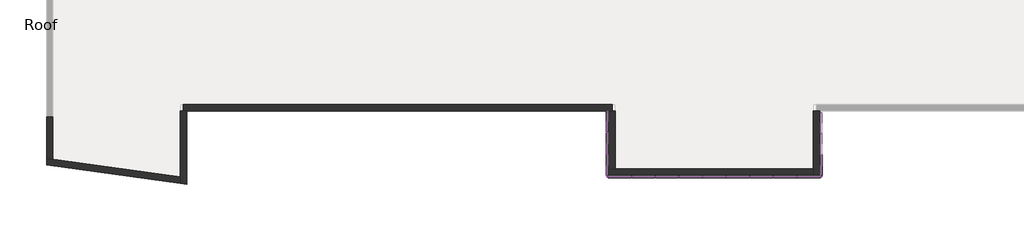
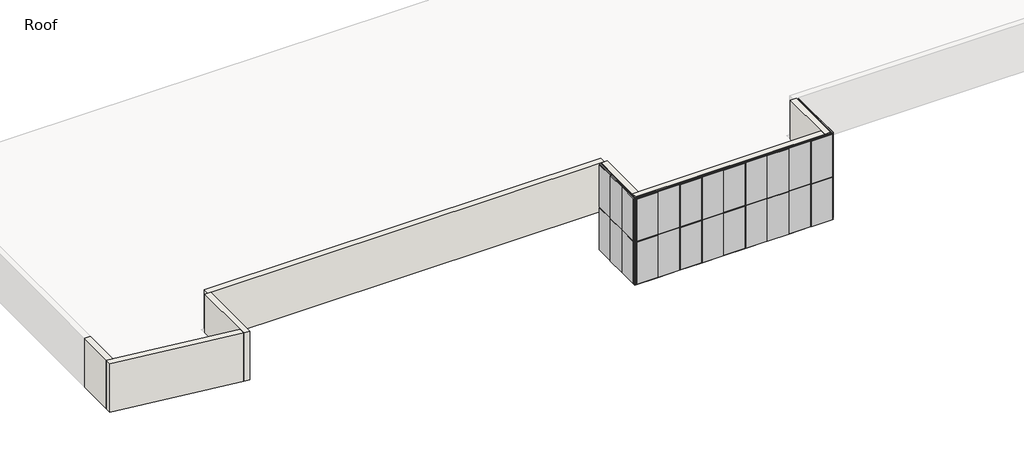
# One storey, part 1 of 5: 74 members, 27 plates, 7 walls.
"""IFC4 building model written with IfcOpenShell, lengths in millimetres."""

from ifc_helpers import new_model, si_unit, frame, origin, place, context, project, spatial, polyline, outline, extrude, faceted_brep, transform, mapped, element, save
from components import rectangular_mullion_25x25mm_786a5d36, rectangular_mullion_25x25mm_25fd254f, rectangular_mullion_25x25mm_09969e68, rectangular_mullion_25x25mm_003a9669, rectangular_mullion_25x25mm_920d8240, rectangular_mullion_25x25mm_c7fa3d61, rectangular_mullion_25x25mm_14c15364, rectangular_mullion_25x25mm_8c50469f, rectangular_mullion_25x25mm_42a5222e, rectangular_mullion_25x25mm_822b7fe3, rectangular_mullion_25x25mm_ea8cc668, rectangular_mullion_25x25mm_12161fae, rectangular_mullion_25x25mm_576a80d7, rectangular_mullion_25x25mm_4aee0d92, rectangular_mullion_25x25mm_b2ae1b76, rectangular_mullion_25x25mm_ac1da17a, rectangular_mullion_25x25mm_82e2e498, rectangular_mullion_25x25mm_e35c5382, rectangular_mullion_25x25mm_88effc69, curtain_panels_solid_solid_panel_green_cec9bcfa, curtain_panels_solid_solid_panel_green_66bc6fd1, curtain_panels_solid_solid_panel_green_5b8b56fd, curtain_panels_solid_solid_panel_green_875d4013

model = new_model("IFC4")

# Units and contexts
model_context = context("Model", 3, world=origin())
ifc_project = project(units=[si_unit("LENGTHUNIT", "METRE", prefix="MILLI")], contexts=[model_context])

# Site, building, storey
site = spatial("IfcSite", under=ifc_project)
building = spatial("IfcBuilding", under=site)
storey = spatial("IfcBuildingStorey", under=building, Name="Roof", Elevation=14600.0)

# Members
placement = place(None, origin())
rectangular_mullion_25x25mm_shape = rectangular_mullion_25x25mm_786a5d36(model_context)
element("IfcMember", 1, ObjectType="Rectangular Mullion : 25x25mm", at=placement, inside=storey, context=model_context, shape_type="MappedRepresentation", body=[
    mapped(rectangular_mullion_25x25mm_shape, transform((24873.2942367, -4250.005341, 16500.0), x_axis=(0.0, 0.0, 1.0), y_axis=(-1.0, 0.0, 0.0), z_axis=(0.0, -1.0, 0.0))),
])
rectangular_mullion_25x25mm_2_shape = rectangular_mullion_25x25mm_25fd254f(model_context)
element("IfcMember", 2, ObjectType="Rectangular Mullion : 25x25mm", at=placement, inside=storey, context=model_context, shape_type="MappedRepresentation", body=[
    mapped(rectangular_mullion_25x25mm_2_shape, transform((24873.2942367, -4977.5053408, 16500.0), x_axis=(0.0, 0.0, 1.0), y_axis=(-1.0, 0.0, 0.0), z_axis=(0.0, -1.0, 0.0))),
])
element("IfcMember", 3, ObjectType="Rectangular Mullion : 25x25mm", at=placement, inside=storey, context=model_context, shape_type="MappedRepresentation", body=[
    mapped(rectangular_mullion_25x25mm_2_shape, transform((24873.2942367, -4250.005341, 13110.0), x_axis=(0.0, 0.0, -1.0), y_axis=(-1.0, 0.0, 0.0), z_axis=(0.0, 1.0, 0.0))),
])
rectangular_mullion_25x25mm_3_shape = rectangular_mullion_25x25mm_09969e68(model_context)
element("IfcMember", 4, ObjectType="Rectangular Mullion : 25x25mm", at=placement, inside=storey, context=model_context, shape_type="MappedRepresentation", body=[
    mapped(rectangular_mullion_25x25mm_3_shape, transform((24873.2942367, -5692.5053409, 14805.0), x_axis=(0.0, 0.0, 1.0), y_axis=(-1.0, 0.0, 0.0), z_axis=(0.0, -1.0, 0.0))),
])
rectangular_mullion_25x25mm_4_shape = rectangular_mullion_25x25mm_003a9669(model_context)
element("IfcMember", 5, ObjectType="Rectangular Mullion : 25x25mm", at=placement, inside=storey, context=model_context, shape_type="MappedRepresentation", body=[
    mapped(rectangular_mullion_25x25mm_4_shape, transform((17573.2942367, -4210.005341, 16500.0), x_axis=(0.0, 0.0, 1.0), y_axis=(-1.0, 0.0, 0.0), z_axis=(0.0, -1.0, 0.0))),
])
rectangular_mullion_25x25mm_5_shape = rectangular_mullion_25x25mm_920d8240(model_context)
element("IfcMember", 6, ObjectType="Rectangular Mullion : 25x25mm", at=placement, inside=storey, context=model_context, shape_type="MappedRepresentation", body=[
    mapped(rectangular_mullion_25x25mm_5_shape, transform((17573.2942367, -4957.5053408, 16500.0), x_axis=(0.0, 0.0, 1.0), y_axis=(-1.0, 0.0, 0.0), z_axis=(0.0, -1.0, 0.0))),
])
element("IfcMember", 7, ObjectType="Rectangular Mullion : 25x25mm", at=placement, inside=storey, context=model_context, shape_type="MappedRepresentation", body=[
    mapped(rectangular_mullion_25x25mm_4_shape, transform((17573.2942367, -3475.0053409, 13110.0), x_axis=(0.0, 0.0, -1.0), y_axis=(-1.0, 0.0, 0.0), z_axis=(0.0, 1.0, 0.0))),
])
element("IfcMember", 8, ObjectType="Rectangular Mullion : 25x25mm", at=placement, inside=storey, context=model_context, shape_type="MappedRepresentation", body=[
    mapped(rectangular_mullion_25x25mm_5_shape, transform((17573.2942367, -4210.005341, 13110.0), x_axis=(0.0, 0.0, -1.0), y_axis=(-1.0, 0.0, 0.0), z_axis=(0.0, 1.0, 0.0))),
])
rectangular_mullion_25x25mm_6_shape = rectangular_mullion_25x25mm_c7fa3d61(model_context)
element("IfcMember", 9, ObjectType="Rectangular Mullion : 25x25mm", at=placement, inside=storey, context=model_context, shape_type="MappedRepresentation", body=[
    mapped(rectangular_mullion_25x25mm_6_shape, transform((24873.2942367, -5717.5053409, 16500.0), x_axis=(0.0, 0.0, 1.0), y_axis=(-1.0, 0.0, 0.0), z_axis=(0.0, -1.0, 0.0))),
])
rectangular_mullion_25x25mm_7_shape = rectangular_mullion_25x25mm_14c15364(model_context)
element("IfcMember", 10, ObjectType="Rectangular Mullion : 25x25mm", at=placement, inside=storey, context=model_context, shape_type="MappedRepresentation", body=[
    mapped(rectangular_mullion_25x25mm_7_shape, transform((24052.4609031, -5717.5053409, 16500.0), x_axis=(0.0, 0.0, 1.0), y_axis=(0.0, 1.0, 0.0), z_axis=(-1.0, 0.0, 0.0))),
])
rectangular_mullion_25x25mm_8_shape = rectangular_mullion_25x25mm_8c50469f(model_context)
element("IfcMember", 11, ObjectType="Rectangular Mullion : 25x25mm", at=placement, inside=storey, context=model_context, shape_type="MappedRepresentation", body=[
    mapped(rectangular_mullion_25x25mm_8_shape, transform((23244.1275698, -5717.5053409, 16500.0), x_axis=(0.0, 0.0, 1.0), y_axis=(0.0, 1.0, 0.0), z_axis=(-1.0, 0.0, 0.0))),
])
element("IfcMember", 12, ObjectType="Rectangular Mullion : 25x25mm", at=placement, inside=storey, context=model_context, shape_type="MappedRepresentation", body=[
    mapped(rectangular_mullion_25x25mm_8_shape, transform((22435.7942366, -5717.5053409, 16500.0), x_axis=(0.0, 0.0, 1.0), y_axis=(0.0, 1.0, 0.0), z_axis=(-1.0, 0.0, 0.0))),
])
element("IfcMember", 13, ObjectType="Rectangular Mullion : 25x25mm", at=placement, inside=storey, context=model_context, shape_type="MappedRepresentation", body=[
    mapped(rectangular_mullion_25x25mm_8_shape, transform((21627.4609033, -5717.5053409, 16500.0), x_axis=(0.0, 0.0, 1.0), y_axis=(0.0, 1.0, 0.0), z_axis=(-1.0, 0.0, 0.0))),
])
element("IfcMember", 14, ObjectType="Rectangular Mullion : 25x25mm", at=placement, inside=storey, context=model_context, shape_type="MappedRepresentation", body=[
    mapped(rectangular_mullion_25x25mm_8_shape, transform((20819.12757, -5717.5053409, 16500.0), x_axis=(0.0, 0.0, 1.0), y_axis=(0.0, 1.0, 0.0), z_axis=(-1.0, 0.0, 0.0))),
])
element("IfcMember", 15, ObjectType="Rectangular Mullion : 25x25mm", at=placement, inside=storey, context=model_context, shape_type="MappedRepresentation", body=[
    mapped(rectangular_mullion_25x25mm_8_shape, transform((20010.7942368, -5717.5053409, 16500.0), x_axis=(0.0, 0.0, 1.0), y_axis=(0.0, 1.0, 0.0), z_axis=(-1.0, 0.0, 0.0))),
])
element("IfcMember", 16, ObjectType="Rectangular Mullion : 25x25mm", at=placement, inside=storey, context=model_context, shape_type="MappedRepresentation", body=[
    mapped(rectangular_mullion_25x25mm_8_shape, transform((19202.4609035, -5717.5053409, 16500.0), x_axis=(0.0, 0.0, 1.0), y_axis=(0.0, 1.0, 0.0), z_axis=(-1.0, 0.0, 0.0))),
])
element("IfcMember", 17, ObjectType="Rectangular Mullion : 25x25mm", at=placement, inside=storey, context=model_context, shape_type="MappedRepresentation", body=[
    mapped(rectangular_mullion_25x25mm_8_shape, transform((18394.1275702, -5717.5053409, 16500.0), x_axis=(0.0, 0.0, 1.0), y_axis=(0.0, 1.0, 0.0), z_axis=(-1.0, 0.0, 0.0))),
])
element("IfcMember", 18, ObjectType="Rectangular Mullion : 25x25mm", at=placement, inside=storey, context=model_context, shape_type="MappedRepresentation", body=[
    mapped(rectangular_mullion_25x25mm_8_shape, transform((24052.4609031, -5717.5053409, 13110.0), x_axis=(0.0, 0.0, -1.0), y_axis=(0.0, 1.0, 0.0), z_axis=(1.0, 0.0, 0.0))),
])
element("IfcMember", 19, ObjectType="Rectangular Mullion : 25x25mm", at=placement, inside=storey, context=model_context, shape_type="MappedRepresentation", body=[
    mapped(rectangular_mullion_25x25mm_8_shape, transform((23244.1275698, -5717.5053409, 13110.0), x_axis=(0.0, 0.0, -1.0), y_axis=(0.0, 1.0, 0.0), z_axis=(1.0, 0.0, 0.0))),
])
element("IfcMember", 20, ObjectType="Rectangular Mullion : 25x25mm", at=placement, inside=storey, context=model_context, shape_type="MappedRepresentation", body=[
    mapped(rectangular_mullion_25x25mm_8_shape, transform((22435.7942366, -5717.5053409, 13110.0), x_axis=(0.0, 0.0, -1.0), y_axis=(0.0, 1.0, 0.0), z_axis=(1.0, 0.0, 0.0))),
])
element("IfcMember", 21, ObjectType="Rectangular Mullion : 25x25mm", at=placement, inside=storey, context=model_context, shape_type="MappedRepresentation", body=[
    mapped(rectangular_mullion_25x25mm_8_shape, transform((21627.4609033, -5717.5053409, 13110.0), x_axis=(0.0, 0.0, -1.0), y_axis=(0.0, 1.0, 0.0), z_axis=(1.0, 0.0, 0.0))),
])
element("IfcMember", 22, ObjectType="Rectangular Mullion : 25x25mm", at=placement, inside=storey, context=model_context, shape_type="MappedRepresentation", body=[
    mapped(rectangular_mullion_25x25mm_8_shape, transform((20819.12757, -5717.5053409, 13110.0), x_axis=(0.0, 0.0, -1.0), y_axis=(0.0, 1.0, 0.0), z_axis=(1.0, 0.0, 0.0))),
])
element("IfcMember", 23, ObjectType="Rectangular Mullion : 25x25mm", at=placement, inside=storey, context=model_context, shape_type="MappedRepresentation", body=[
    mapped(rectangular_mullion_25x25mm_8_shape, transform((20010.7942368, -5717.5053409, 13110.0), x_axis=(0.0, 0.0, -1.0), y_axis=(0.0, 1.0, 0.0), z_axis=(1.0, 0.0, 0.0))),
])
element("IfcMember", 24, ObjectType="Rectangular Mullion : 25x25mm", at=placement, inside=storey, context=model_context, shape_type="MappedRepresentation", body=[
    mapped(rectangular_mullion_25x25mm_8_shape, transform((19202.4609035, -5717.5053409, 13110.0), x_axis=(0.0, 0.0, -1.0), y_axis=(0.0, 1.0, 0.0), z_axis=(1.0, 0.0, 0.0))),
])
rectangular_mullion_25x25mm_9_shape = rectangular_mullion_25x25mm_42a5222e(model_context)
element("IfcMember", 25, ObjectType="Rectangular Mullion : 25x25mm", at=placement, inside=storey, context=model_context, shape_type="MappedRepresentation", body=[
    mapped(rectangular_mullion_25x25mm_9_shape, transform((24064.9609031, -5717.5053409, 14805.0), x_axis=(0.0, 0.0, 1.0), y_axis=(0.0, 1.0, 0.0), z_axis=(-1.0, 0.0, 0.0))),
])
element("IfcMember", 26, ObjectType="Rectangular Mullion : 25x25mm", at=placement, inside=storey, context=model_context, shape_type="MappedRepresentation", body=[
    mapped(rectangular_mullion_25x25mm_9_shape, transform((23256.6275698, -5717.5053409, 14805.0), x_axis=(0.0, 0.0, 1.0), y_axis=(0.0, 1.0, 0.0), z_axis=(-1.0, 0.0, 0.0))),
])
element("IfcMember", 27, ObjectType="Rectangular Mullion : 25x25mm", at=placement, inside=storey, context=model_context, shape_type="MappedRepresentation", body=[
    mapped(rectangular_mullion_25x25mm_9_shape, transform((22448.2942366, -5717.5053409, 14805.0), x_axis=(0.0, 0.0, 1.0), y_axis=(0.0, 1.0, 0.0), z_axis=(-1.0, 0.0, 0.0))),
])
element("IfcMember", 28, ObjectType="Rectangular Mullion : 25x25mm", at=placement, inside=storey, context=model_context, shape_type="MappedRepresentation", body=[
    mapped(rectangular_mullion_25x25mm_9_shape, transform((21639.9609033, -5717.5053409, 14805.0), x_axis=(0.0, 0.0, 1.0), y_axis=(0.0, 1.0, 0.0), z_axis=(-1.0, 0.0, 0.0))),
])
element("IfcMember", 29, ObjectType="Rectangular Mullion : 25x25mm", at=placement, inside=storey, context=model_context, shape_type="MappedRepresentation", body=[
    mapped(rectangular_mullion_25x25mm_9_shape, transform((20831.62757, -5717.5053409, 14805.0), x_axis=(0.0, 0.0, 1.0), y_axis=(0.0, 1.0, 0.0), z_axis=(-1.0, 0.0, 0.0))),
])
element("IfcMember", 30, ObjectType="Rectangular Mullion : 25x25mm", at=placement, inside=storey, context=model_context, shape_type="MappedRepresentation", body=[
    mapped(rectangular_mullion_25x25mm_9_shape, transform((20023.2942368, -5717.5053409, 14805.0), x_axis=(0.0, 0.0, 1.0), y_axis=(0.0, 1.0, 0.0), z_axis=(-1.0, 0.0, 0.0))),
])
element("IfcMember", 31, ObjectType="Rectangular Mullion : 25x25mm", at=placement, inside=storey, context=model_context, shape_type="MappedRepresentation", body=[
    mapped(rectangular_mullion_25x25mm_9_shape, transform((19214.9609035, -5717.5053409, 14805.0), x_axis=(0.0, 0.0, 1.0), y_axis=(0.0, 1.0, 0.0), z_axis=(-1.0, 0.0, 0.0))),
])
element("IfcMember", 32, ObjectType="Rectangular Mullion : 25x25mm", at=placement, inside=storey, context=model_context, shape_type="MappedRepresentation", body=[
    mapped(rectangular_mullion_25x25mm_9_shape, transform((18406.6275702, -5717.5053409, 14805.0), x_axis=(0.0, 0.0, 1.0), y_axis=(0.0, 1.0, 0.0), z_axis=(-1.0, 0.0, 0.0))),
])
element("IfcMember", 33, ObjectType="Rectangular Mullion : 25x25mm", at=placement, inside=storey, context=model_context, shape_type="MappedRepresentation", body=[
    mapped(rectangular_mullion_25x25mm_9_shape, transform((17598.2942367, -5717.5053409, 14805.0), x_axis=(0.0, 0.0, 1.0), y_axis=(0.0, 1.0, 0.0), z_axis=(-1.0, 0.0, 0.0))),
])
rectangular_mullion_25x25mm_10_shape = rectangular_mullion_25x25mm_822b7fe3(model_context)
element("IfcMember", 34, ObjectType="Rectangular Mullion : 25x25mm", at=placement, inside=storey, context=model_context, shape_type="MappedRepresentation", body=[
    mapped(rectangular_mullion_25x25mm_10_shape, transform((17573.2942367, -5717.5053409, 16500.0), x_axis=(0.0, 0.0, 1.0), y_axis=(-1.0, 0.0, 0.0), z_axis=(0.0, -1.0, 0.0))),
])
rectangular_mullion_25x25mm_11_shape = rectangular_mullion_25x25mm_ea8cc668(model_context)
element("IfcMember", 35, ObjectType="Rectangular Mullion : 25x25mm", at=placement, inside=storey, context=model_context, shape_type="MappedRepresentation", body=[
    mapped(rectangular_mullion_25x25mm_11_shape, transform((17573.2942367, -5717.5053409, 16500.0), x_axis=(0.0, 0.0, 1.0), y_axis=(0.0, 1.0, 0.0), z_axis=(-1.0, 0.0, 0.0))),
])
element("IfcMember", 36, ObjectType="Rectangular Mullion : 25x25mm", at=placement, inside=storey, context=model_context, shape_type="MappedRepresentation", body=[
    mapped(rectangular_mullion_25x25mm_11_shape, transform((24873.2942367, -5717.5053409, 13110.0), x_axis=(0.0, 0.0, -1.0), y_axis=(0.0, 1.0, 0.0), z_axis=(1.0, 0.0, 0.0))),
])
element("IfcMember", 37, ObjectType="Rectangular Mullion : 25x25mm", at=placement, inside=storey, context=model_context, shape_type="MappedRepresentation", body=[
    mapped(rectangular_mullion_25x25mm_7_shape, transform((18394.1275702, -5717.5053409, 13110.0), x_axis=(0.0, 0.0, -1.0), y_axis=(0.0, 1.0, 0.0), z_axis=(1.0, 0.0, 0.0))),
])
rectangular_mullion_25x25mm_12_shape = rectangular_mullion_25x25mm_12161fae(model_context)
element("IfcMember", 38, ObjectType="Rectangular Mullion : 25x25mm", at=placement, inside=storey, context=model_context, shape_type="MappedRepresentation", body=[
    mapped(rectangular_mullion_25x25mm_12_shape, transform((24873.2942367, -4977.5053408, 13110.0), x_axis=(0.0, 0.0, -1.0), y_axis=(-1.0, 0.0, 0.0), z_axis=(0.0, 1.0, 0.0))),
])
rectangular_mullion_25x25mm_13_shape = rectangular_mullion_25x25mm_576a80d7(model_context)
element("IfcMember", 39, ObjectType="Rectangular Mullion : 25x25mm", at=placement, inside=storey, context=model_context, shape_type="MappedRepresentation", body=[
    mapped(rectangular_mullion_25x25mm_13_shape, transform((17573.2942367, -4957.5053408, 13110.0), x_axis=(0.0, 0.0, -1.0), y_axis=(-1.0, 0.0, 0.0), z_axis=(0.0, 1.0, 0.0))),
])
rectangular_mullion_25x25mm_14_shape = rectangular_mullion_25x25mm_4aee0d92(model_context)
element("IfcMember", 40, ObjectType="Rectangular Mullion : 25x25mm", at=placement, inside=storey, context=model_context, shape_type="MappedRepresentation", body=[
    mapped(rectangular_mullion_25x25mm_14_shape, transform((24873.2942367, -4250.005341, 13135.0), x_axis=(0.0, -1.0, 0.0), y_axis=(-1.0, 0.0, 0.0), z_axis=(0.0, 0.0, -1.0))),
])
element("IfcMember", 41, ObjectType="Rectangular Mullion : 25x25mm", at=placement, inside=storey, context=model_context, shape_type="MappedRepresentation", body=[
    mapped(rectangular_mullion_25x25mm_14_shape, transform((24873.2942367, -4977.5053408, 13135.0), x_axis=(0.0, -1.0, 0.0), y_axis=(-1.0, 0.0, 0.0), z_axis=(0.0, 0.0, -1.0))),
])
element("IfcMember", 42, ObjectType="Rectangular Mullion : 25x25mm", at=placement, inside=storey, context=model_context, shape_type="MappedRepresentation", body=[
    mapped(rectangular_mullion_25x25mm_14_shape, transform((24052.4609031, -5717.5053409, 13135.0), x_axis=(-1.0, 0.0, 0.0), y_axis=(0.0, 1.0, 0.0), z_axis=(0.0, 0.0, -1.0))),
])
element("IfcMember", 43, ObjectType="Rectangular Mullion : 25x25mm", at=placement, inside=storey, context=model_context, shape_type="MappedRepresentation", body=[
    mapped(rectangular_mullion_25x25mm_14_shape, transform((23244.1275698, -5717.5053409, 13135.0), x_axis=(-1.0, 0.0, 0.0), y_axis=(0.0, 1.0, 0.0), z_axis=(0.0, 0.0, -1.0))),
])
element("IfcMember", 44, ObjectType="Rectangular Mullion : 25x25mm", at=placement, inside=storey, context=model_context, shape_type="MappedRepresentation", body=[
    mapped(rectangular_mullion_25x25mm_14_shape, transform((22435.7942366, -5717.5053409, 13135.0), x_axis=(-1.0, 0.0, 0.0), y_axis=(0.0, 1.0, 0.0), z_axis=(0.0, 0.0, -1.0))),
])
element("IfcMember", 45, ObjectType="Rectangular Mullion : 25x25mm", at=placement, inside=storey, context=model_context, shape_type="MappedRepresentation", body=[
    mapped(rectangular_mullion_25x25mm_14_shape, transform((21627.4609033, -5717.5053409, 13135.0), x_axis=(-1.0, 0.0, 0.0), y_axis=(0.0, 1.0, 0.0), z_axis=(0.0, 0.0, -1.0))),
])
element("IfcMember", 46, ObjectType="Rectangular Mullion : 25x25mm", at=placement, inside=storey, context=model_context, shape_type="MappedRepresentation", body=[
    mapped(rectangular_mullion_25x25mm_14_shape, transform((20819.12757, -5717.5053409, 13135.0), x_axis=(-1.0, 0.0, 0.0), y_axis=(0.0, 1.0, 0.0), z_axis=(0.0, 0.0, -1.0))),
])
element("IfcMember", 47, ObjectType="Rectangular Mullion : 25x25mm", at=placement, inside=storey, context=model_context, shape_type="MappedRepresentation", body=[
    mapped(rectangular_mullion_25x25mm_14_shape, transform((20010.7942368, -5717.5053409, 13135.0), x_axis=(-1.0, 0.0, 0.0), y_axis=(0.0, 1.0, 0.0), z_axis=(0.0, 0.0, -1.0))),
])
element("IfcMember", 48, ObjectType="Rectangular Mullion : 25x25mm", at=placement, inside=storey, context=model_context, shape_type="MappedRepresentation", body=[
    mapped(rectangular_mullion_25x25mm_14_shape, transform((19202.4609035, -5717.5053409, 13135.0), x_axis=(-1.0, 0.0, 0.0), y_axis=(0.0, 1.0, 0.0), z_axis=(0.0, 0.0, -1.0))),
])
element("IfcMember", 49, ObjectType="Rectangular Mullion : 25x25mm", at=placement, inside=storey, context=model_context, shape_type="MappedRepresentation", body=[
    mapped(rectangular_mullion_25x25mm_14_shape, transform((18394.1275702, -5717.5053409, 13135.0), x_axis=(-1.0, 0.0, 0.0), y_axis=(0.0, 1.0, 0.0), z_axis=(0.0, 0.0, -1.0))),
])
element("IfcMember", 50, ObjectType="Rectangular Mullion : 25x25mm", at=placement, inside=storey, context=model_context, shape_type="MappedRepresentation", body=[
    mapped(rectangular_mullion_25x25mm_14_shape, transform((24052.4609031, -5717.5053409, 14805.0), x_axis=(-1.0, 0.0, 0.0), y_axis=(0.0, 1.0, 0.0), z_axis=(0.0, 0.0, -1.0))),
])
element("IfcMember", 51, ObjectType="Rectangular Mullion : 25x25mm", at=placement, inside=storey, context=model_context, shape_type="MappedRepresentation", body=[
    mapped(rectangular_mullion_25x25mm_14_shape, transform((23244.1275698, -5717.5053409, 14805.0), x_axis=(-1.0, 0.0, 0.0), y_axis=(0.0, 1.0, 0.0), z_axis=(0.0, 0.0, -1.0))),
])
element("IfcMember", 52, ObjectType="Rectangular Mullion : 25x25mm", at=placement, inside=storey, context=model_context, shape_type="MappedRepresentation", body=[
    mapped(rectangular_mullion_25x25mm_14_shape, transform((22435.7942366, -5717.5053409, 14805.0), x_axis=(-1.0, 0.0, 0.0), y_axis=(0.0, 1.0, 0.0), z_axis=(0.0, 0.0, -1.0))),
])
element("IfcMember", 53, ObjectType="Rectangular Mullion : 25x25mm", at=placement, inside=storey, context=model_context, shape_type="MappedRepresentation", body=[
    mapped(rectangular_mullion_25x25mm_14_shape, transform((21627.4609033, -5717.5053409, 14805.0), x_axis=(-1.0, 0.0, 0.0), y_axis=(0.0, 1.0, 0.0), z_axis=(0.0, 0.0, -1.0))),
])
element("IfcMember", 54, ObjectType="Rectangular Mullion : 25x25mm", at=placement, inside=storey, context=model_context, shape_type="MappedRepresentation", body=[
    mapped(rectangular_mullion_25x25mm_14_shape, transform((20819.12757, -5717.5053409, 14805.0), x_axis=(-1.0, 0.0, 0.0), y_axis=(0.0, 1.0, 0.0), z_axis=(0.0, 0.0, -1.0))),
])
element("IfcMember", 55, ObjectType="Rectangular Mullion : 25x25mm", at=placement, inside=storey, context=model_context, shape_type="MappedRepresentation", body=[
    mapped(rectangular_mullion_25x25mm_14_shape, transform((20010.7942368, -5717.5053409, 14805.0), x_axis=(-1.0, 0.0, 0.0), y_axis=(0.0, 1.0, 0.0), z_axis=(0.0, 0.0, -1.0))),
])
element("IfcMember", 56, ObjectType="Rectangular Mullion : 25x25mm", at=placement, inside=storey, context=model_context, shape_type="MappedRepresentation", body=[
    mapped(rectangular_mullion_25x25mm_14_shape, transform((19202.4609035, -5717.5053409, 14805.0), x_axis=(-1.0, 0.0, 0.0), y_axis=(0.0, 1.0, 0.0), z_axis=(0.0, 0.0, -1.0))),
])
element("IfcMember", 57, ObjectType="Rectangular Mullion : 25x25mm", at=placement, inside=storey, context=model_context, shape_type="MappedRepresentation", body=[
    mapped(rectangular_mullion_25x25mm_14_shape, transform((18394.1275702, -5717.5053409, 14805.0), x_axis=(-1.0, 0.0, 0.0), y_axis=(0.0, 1.0, 0.0), z_axis=(0.0, 0.0, -1.0))),
])
rectangular_mullion_25x25mm_15_shape = rectangular_mullion_25x25mm_b2ae1b76(model_context)
element("IfcMember", 58, ObjectType="Rectangular Mullion : 25x25mm", at=placement, inside=storey, context=model_context, shape_type="MappedRepresentation", body=[
    mapped(rectangular_mullion_25x25mm_15_shape, transform((24873.2942367, -5717.5053409, 13135.0), x_axis=(0.0, -1.0, 0.0), y_axis=(-1.0, 0.0, 0.0), z_axis=(0.0, 0.0, -1.0))),
])
element("IfcMember", 59, ObjectType="Rectangular Mullion : 25x25mm", at=placement, inside=storey, context=model_context, shape_type="MappedRepresentation", body=[
    mapped(rectangular_mullion_25x25mm_15_shape, transform((17573.2942367, -5717.5053409, 13135.0), x_axis=(-1.0, 0.0, 0.0), y_axis=(0.0, 1.0, 0.0), z_axis=(0.0, 0.0, -1.0))),
])
element("IfcMember", 60, ObjectType="Rectangular Mullion : 25x25mm", at=placement, inside=storey, context=model_context, shape_type="MappedRepresentation", body=[
    mapped(rectangular_mullion_25x25mm_15_shape, transform((24873.2942367, -5717.5053409, 16475.0), x_axis=(1.0, 0.0, 0.0), y_axis=(0.0, 1.0, 0.0), z_axis=(0.0, 0.0, 1.0))),
])
element("IfcMember", 61, ObjectType="Rectangular Mullion : 25x25mm", at=placement, inside=storey, context=model_context, shape_type="MappedRepresentation", body=[
    mapped(rectangular_mullion_25x25mm_15_shape, transform((24873.2942367, -5717.5053409, 14805.0), x_axis=(0.0, -1.0, 0.0), y_axis=(-1.0, 0.0, 0.0), z_axis=(0.0, 0.0, -1.0))),
])
element("IfcMember", 62, ObjectType="Rectangular Mullion : 25x25mm", at=placement, inside=storey, context=model_context, shape_type="MappedRepresentation", body=[
    mapped(rectangular_mullion_25x25mm_15_shape, transform((17573.2942367, -5717.5053409, 14805.0), x_axis=(-1.0, 0.0, 0.0), y_axis=(0.0, 1.0, 0.0), z_axis=(0.0, 0.0, -1.0))),
])
element("IfcMember", 63, ObjectType="Rectangular Mullion : 25x25mm", at=placement, inside=storey, context=model_context, shape_type="MappedRepresentation", body=[
    mapped(rectangular_mullion_25x25mm_15_shape, transform((24873.2942367, -5717.5053409, 14805.0), x_axis=(1.0, 0.0, 0.0), y_axis=(0.0, 1.0, 0.0), z_axis=(0.0, 0.0, 1.0))),
])
rectangular_mullion_25x25mm_16_shape = rectangular_mullion_25x25mm_ac1da17a(model_context)
element("IfcMember", 64, ObjectType="Rectangular Mullion : 25x25mm", at=placement, inside=storey, context=model_context, shape_type="MappedRepresentation", body=[
    mapped(rectangular_mullion_25x25mm_16_shape, transform((17573.2942367, -4210.005341, 13135.0), x_axis=(0.0, -1.0, 0.0), y_axis=(-1.0, 0.0, 0.0), z_axis=(0.0, 0.0, -1.0))),
])
element("IfcMember", 65, ObjectType="Rectangular Mullion : 25x25mm", at=placement, inside=storey, context=model_context, shape_type="MappedRepresentation", body=[
    mapped(rectangular_mullion_25x25mm_16_shape, transform((17573.2942367, -4957.5053408, 13135.0), x_axis=(0.0, -1.0, 0.0), y_axis=(-1.0, 0.0, 0.0), z_axis=(0.0, 0.0, -1.0))),
])
element("IfcMember", 66, ObjectType="Rectangular Mullion : 25x25mm", at=placement, inside=storey, context=model_context, shape_type="MappedRepresentation", body=[
    mapped(rectangular_mullion_25x25mm_16_shape, transform((17573.2942367, -4210.005341, 14805.0), x_axis=(0.0, -1.0, 0.0), y_axis=(-1.0, 0.0, 0.0), z_axis=(0.0, 0.0, -1.0))),
])
element("IfcMember", 67, ObjectType="Rectangular Mullion : 25x25mm", at=placement, inside=storey, context=model_context, shape_type="MappedRepresentation", body=[
    mapped(rectangular_mullion_25x25mm_16_shape, transform((17573.2942367, -4957.5053408, 14805.0), x_axis=(0.0, -1.0, 0.0), y_axis=(-1.0, 0.0, 0.0), z_axis=(0.0, 0.0, -1.0))),
])
rectangular_mullion_25x25mm_17_shape = rectangular_mullion_25x25mm_82e2e498(model_context)
element("IfcMember", 68, ObjectType="Rectangular Mullion : 25x25mm", at=placement, inside=storey, context=model_context, shape_type="MappedRepresentation", body=[
    mapped(rectangular_mullion_25x25mm_17_shape, transform((17573.2942367, -4197.505341, 14805.0), x_axis=(0.0, 0.0, 1.0), y_axis=(-1.0, 0.0, 0.0), z_axis=(0.0, -1.0, 0.0))),
])
rectangular_mullion_25x25mm_18_shape = rectangular_mullion_25x25mm_e35c5382(model_context)
element("IfcMember", 69, ObjectType="Rectangular Mullion : 25x25mm", at=placement, inside=storey, context=model_context, shape_type="MappedRepresentation", body=[
    mapped(rectangular_mullion_25x25mm_18_shape, transform((17573.2942367, -4945.0053408, 14805.0), x_axis=(0.0, 0.0, 1.0), y_axis=(-1.0, 0.0, 0.0), z_axis=(0.0, -1.0, 0.0))),
])
element("IfcMember", 70, ObjectType="Rectangular Mullion : 25x25mm", at=placement, inside=storey, context=model_context, shape_type="MappedRepresentation", body=[
    mapped(rectangular_mullion_25x25mm_18_shape, transform((17573.2942367, -5692.5053409, 14805.0), x_axis=(0.0, 0.0, 1.0), y_axis=(-1.0, 0.0, 0.0), z_axis=(0.0, -1.0, 0.0))),
])
rectangular_mullion_25x25mm_19_shape = rectangular_mullion_25x25mm_88effc69(model_context)
element("IfcMember", 71, ObjectType="Rectangular Mullion : 25x25mm", at=placement, inside=storey, context=model_context, shape_type="MappedRepresentation", body=[
    mapped(rectangular_mullion_25x25mm_19_shape, transform((17573.2942367, -5717.5053409, 13135.0), x_axis=(0.0, -1.0, 0.0), y_axis=(-1.0, 0.0, 0.0), z_axis=(0.0, 0.0, -1.0))),
])
element("IfcMember", 72, ObjectType="Rectangular Mullion : 25x25mm", at=placement, inside=storey, context=model_context, shape_type="MappedRepresentation", body=[
    mapped(rectangular_mullion_25x25mm_19_shape, transform((17573.2942367, -3475.0053409, 16475.0), x_axis=(0.0, 1.0, 0.0), y_axis=(-1.0, 0.0, 0.0), z_axis=(0.0, 0.0, 1.0))),
])
element("IfcMember", 73, ObjectType="Rectangular Mullion : 25x25mm", at=placement, inside=storey, context=model_context, shape_type="MappedRepresentation", body=[
    mapped(rectangular_mullion_25x25mm_19_shape, transform((17573.2942367, -5717.5053409, 14805.0), x_axis=(0.0, -1.0, 0.0), y_axis=(-1.0, 0.0, 0.0), z_axis=(0.0, 0.0, -1.0))),
])
element("IfcMember", 74, ObjectType="Rectangular Mullion : 25x25mm", at=placement, inside=storey, context=model_context, shape_type="MappedRepresentation", body=[
    mapped(rectangular_mullion_25x25mm_19_shape, transform((17573.2942367, -3475.0053409, 14805.0), x_axis=(0.0, 1.0, 0.0), y_axis=(-1.0, 0.0, 0.0), z_axis=(0.0, 0.0, 1.0))),
])

# Plates
curtain_panels_solid_solid_panel_green_shape = curtain_panels_solid_solid_panel_green_cec9bcfa(model_context)
element("IfcPlate", 75, ObjectType="Curtain_Panels_Solid : Solid_Panel_Green", at=placement, inside=storey, context=model_context, shape_type="MappedRepresentation", body=[
    mapped(curtain_panels_solid_solid_panel_green_shape, transform((24873.2942367, -4613.7553409, 13135.0), x_axis=(0.0, -1.0, 0.0), y_axis=(1.0, 0.0, 0.0), z_axis=(0.0, 0.0, 1.0))),
])
element("IfcPlate", 76, ObjectType="Curtain_Panels_Solid : Solid_Panel_Green", at=placement, inside=storey, context=model_context, shape_type="MappedRepresentation", body=[
    mapped(curtain_panels_solid_solid_panel_green_shape, transform((24873.2942367, -5341.2553408, 13135.0), x_axis=(0.0, -1.0, 0.0), y_axis=(1.0, 0.0, 0.0), z_axis=(0.0, 0.0, 1.0))),
])
element("IfcPlate", 77, ObjectType="Curtain_Panels_Solid : Solid_Panel_Green", at=placement, inside=storey, context=model_context, shape_type="MappedRepresentation", body=[
    mapped(curtain_panels_solid_solid_panel_green_shape, transform((24873.2942367, -5341.2553408, 14817.5), x_axis=(0.0, -1.0, 0.0), y_axis=(1.0, 0.0, 0.0), z_axis=(0.0, 0.0, 1.0))),
])
curtain_panels_solid_solid_panel_green_2_shape = curtain_panels_solid_solid_panel_green_66bc6fd1(model_context)
element("IfcPlate", 78, ObjectType="Curtain_Panels_Solid : Solid_Panel_Green", at=placement, inside=storey, context=model_context, shape_type="MappedRepresentation", body=[
    mapped(curtain_panels_solid_solid_panel_green_2_shape, transform((24456.6275699, -5717.5053409, 13135.0), x_axis=(-1.0, 0.0, 0.0), y_axis=(0.0, -1.0, 0.0), z_axis=(0.0, 0.0, 1.0))),
])
element("IfcPlate", 79, ObjectType="Curtain_Panels_Solid : Solid_Panel_Green", at=placement, inside=storey, context=model_context, shape_type="MappedRepresentation", body=[
    mapped(curtain_panels_solid_solid_panel_green_2_shape, transform((23648.2942365, -5717.5053409, 13135.0), x_axis=(-1.0, 0.0, 0.0), y_axis=(0.0, -1.0, 0.0), z_axis=(0.0, 0.0, 1.0))),
])
element("IfcPlate", 80, ObjectType="Curtain_Panels_Solid : Solid_Panel_Green", at=placement, inside=storey, context=model_context, shape_type="MappedRepresentation", body=[
    mapped(curtain_panels_solid_solid_panel_green_2_shape, transform((22839.9609032, -5717.5053409, 13135.0), x_axis=(-1.0, 0.0, 0.0), y_axis=(0.0, -1.0, 0.0), z_axis=(0.0, 0.0, 1.0))),
])
element("IfcPlate", 81, ObjectType="Curtain_Panels_Solid : Solid_Panel_Green", at=placement, inside=storey, context=model_context, shape_type="MappedRepresentation", body=[
    mapped(curtain_panels_solid_solid_panel_green_2_shape, transform((22031.6275699, -5717.5053409, 13135.0), x_axis=(-1.0, 0.0, 0.0), y_axis=(0.0, -1.0, 0.0), z_axis=(0.0, 0.0, 1.0))),
])
element("IfcPlate", 82, ObjectType="Curtain_Panels_Solid : Solid_Panel_Green", at=placement, inside=storey, context=model_context, shape_type="MappedRepresentation", body=[
    mapped(curtain_panels_solid_solid_panel_green_2_shape, transform((21223.2942367, -5717.5053409, 13135.0), x_axis=(-1.0, 0.0, 0.0), y_axis=(0.0, -1.0, 0.0), z_axis=(0.0, 0.0, 1.0))),
])
element("IfcPlate", 83, ObjectType="Curtain_Panels_Solid : Solid_Panel_Green", at=placement, inside=storey, context=model_context, shape_type="MappedRepresentation", body=[
    mapped(curtain_panels_solid_solid_panel_green_2_shape, transform((20414.9609034, -5717.5053409, 13135.0), x_axis=(-1.0, 0.0, 0.0), y_axis=(0.0, -1.0, 0.0), z_axis=(0.0, 0.0, 1.0))),
])
element("IfcPlate", 84, ObjectType="Curtain_Panels_Solid : Solid_Panel_Green", at=placement, inside=storey, context=model_context, shape_type="MappedRepresentation", body=[
    mapped(curtain_panels_solid_solid_panel_green_2_shape, transform((19606.6275701, -5717.5053409, 13135.0), x_axis=(-1.0, 0.0, 0.0), y_axis=(0.0, -1.0, 0.0), z_axis=(0.0, 0.0, 1.0))),
])
element("IfcPlate", 85, ObjectType="Curtain_Panels_Solid : Solid_Panel_Green", at=placement, inside=storey, context=model_context, shape_type="MappedRepresentation", body=[
    mapped(curtain_panels_solid_solid_panel_green_2_shape, transform((18798.2942369, -5717.5053409, 13135.0), x_axis=(-1.0, 0.0, 0.0), y_axis=(0.0, -1.0, 0.0), z_axis=(0.0, 0.0, 1.0))),
])
element("IfcPlate", 86, ObjectType="Curtain_Panels_Solid : Solid_Panel_Green", at=placement, inside=storey, context=model_context, shape_type="MappedRepresentation", body=[
    mapped(curtain_panels_solid_solid_panel_green_2_shape, transform((17989.9609035, -5717.5053409, 13135.0), x_axis=(-1.0, 0.0, 0.0), y_axis=(0.0, -1.0, 0.0), z_axis=(0.0, 0.0, 1.0))),
])
element("IfcPlate", 87, ObjectType="Curtain_Panels_Solid : Solid_Panel_Green", at=placement, inside=storey, context=model_context, shape_type="MappedRepresentation", body=[
    mapped(curtain_panels_solid_solid_panel_green_2_shape, transform((24456.6275699, -5717.5053409, 14817.5), x_axis=(-1.0, 0.0, 0.0), y_axis=(0.0, -1.0, 0.0), z_axis=(0.0, 0.0, 1.0))),
])
element("IfcPlate", 88, ObjectType="Curtain_Panels_Solid : Solid_Panel_Green", at=placement, inside=storey, context=model_context, shape_type="MappedRepresentation", body=[
    mapped(curtain_panels_solid_solid_panel_green_2_shape, transform((23648.2942365, -5717.5053409, 14817.5), x_axis=(-1.0, 0.0, 0.0), y_axis=(0.0, -1.0, 0.0), z_axis=(0.0, 0.0, 1.0))),
])
element("IfcPlate", 89, ObjectType="Curtain_Panels_Solid : Solid_Panel_Green", at=placement, inside=storey, context=model_context, shape_type="MappedRepresentation", body=[
    mapped(curtain_panels_solid_solid_panel_green_2_shape, transform((22839.9609032, -5717.5053409, 14817.5), x_axis=(-1.0, 0.0, 0.0), y_axis=(0.0, -1.0, 0.0), z_axis=(0.0, 0.0, 1.0))),
])
element("IfcPlate", 90, ObjectType="Curtain_Panels_Solid : Solid_Panel_Green", at=placement, inside=storey, context=model_context, shape_type="MappedRepresentation", body=[
    mapped(curtain_panels_solid_solid_panel_green_2_shape, transform((22031.6275699, -5717.5053409, 14817.5), x_axis=(-1.0, 0.0, 0.0), y_axis=(0.0, -1.0, 0.0), z_axis=(0.0, 0.0, 1.0))),
])
element("IfcPlate", 91, ObjectType="Curtain_Panels_Solid : Solid_Panel_Green", at=placement, inside=storey, context=model_context, shape_type="MappedRepresentation", body=[
    mapped(curtain_panels_solid_solid_panel_green_2_shape, transform((21223.2942367, -5717.5053409, 14817.5), x_axis=(-1.0, 0.0, 0.0), y_axis=(0.0, -1.0, 0.0), z_axis=(0.0, 0.0, 1.0))),
])
element("IfcPlate", 92, ObjectType="Curtain_Panels_Solid : Solid_Panel_Green", at=placement, inside=storey, context=model_context, shape_type="MappedRepresentation", body=[
    mapped(curtain_panels_solid_solid_panel_green_2_shape, transform((20414.9609034, -5717.5053409, 14817.5), x_axis=(-1.0, 0.0, 0.0), y_axis=(0.0, -1.0, 0.0), z_axis=(0.0, 0.0, 1.0))),
])
element("IfcPlate", 93, ObjectType="Curtain_Panels_Solid : Solid_Panel_Green", at=placement, inside=storey, context=model_context, shape_type="MappedRepresentation", body=[
    mapped(curtain_panels_solid_solid_panel_green_2_shape, transform((19606.6275701, -5717.5053409, 14817.5), x_axis=(-1.0, 0.0, 0.0), y_axis=(0.0, -1.0, 0.0), z_axis=(0.0, 0.0, 1.0))),
])
element("IfcPlate", 94, ObjectType="Curtain_Panels_Solid : Solid_Panel_Green", at=placement, inside=storey, context=model_context, shape_type="MappedRepresentation", body=[
    mapped(curtain_panels_solid_solid_panel_green_2_shape, transform((18798.2942369, -5717.5053409, 14817.5), x_axis=(-1.0, 0.0, 0.0), y_axis=(0.0, -1.0, 0.0), z_axis=(0.0, 0.0, 1.0))),
])
element("IfcPlate", 95, ObjectType="Curtain_Panels_Solid : Solid_Panel_Green", at=placement, inside=storey, context=model_context, shape_type="MappedRepresentation", body=[
    mapped(curtain_panels_solid_solid_panel_green_2_shape, transform((17989.9609035, -5717.5053409, 14817.5), x_axis=(-1.0, 0.0, 0.0), y_axis=(0.0, -1.0, 0.0), z_axis=(0.0, 0.0, 1.0))),
])
curtain_panels_solid_solid_panel_green_3_shape = curtain_panels_solid_solid_panel_green_5b8b56fd(model_context)
element("IfcPlate", 96, ObjectType="Curtain_Panels_Solid : Solid_Panel_Green", at=placement, inside=storey, context=model_context, shape_type="MappedRepresentation", body=[
    mapped(curtain_panels_solid_solid_panel_green_3_shape, transform((17573.2942367, -3848.7553409, 13135.0), x_axis=(0.0, -1.0, 0.0), y_axis=(1.0, 0.0, 0.0), z_axis=(0.0, 0.0, 1.0))),
])
element("IfcPlate", 97, ObjectType="Curtain_Panels_Solid : Solid_Panel_Green", at=placement, inside=storey, context=model_context, shape_type="MappedRepresentation", body=[
    mapped(curtain_panels_solid_solid_panel_green_3_shape, transform((17573.2942367, -3848.7553409, 14817.5), x_axis=(0.0, -1.0, 0.0), y_axis=(1.0, 0.0, 0.0), z_axis=(0.0, 0.0, 1.0))),
])
curtain_panels_solid_solid_panel_green_4_shape = curtain_panels_solid_solid_panel_green_875d4013(model_context)
element("IfcPlate", 98, ObjectType="Curtain_Panels_Solid : Solid_Panel_Green", at=placement, inside=storey, context=model_context, shape_type="MappedRepresentation", body=[
    mapped(curtain_panels_solid_solid_panel_green_4_shape, transform((17573.2942367, -4583.7553409, 13135.0), x_axis=(0.0, -1.0, 0.0), y_axis=(1.0, 0.0, 0.0), z_axis=(0.0, 0.0, 1.0))),
])
element("IfcPlate", 99, ObjectType="Curtain_Panels_Solid : Solid_Panel_Green", at=placement, inside=storey, context=model_context, shape_type="MappedRepresentation", body=[
    mapped(curtain_panels_solid_solid_panel_green_4_shape, transform((17573.2942367, -5331.2553408, 13135.0), x_axis=(0.0, -1.0, 0.0), y_axis=(1.0, 0.0, 0.0), z_axis=(0.0, 0.0, 1.0))),
])
element("IfcPlate", 100, ObjectType="Curtain_Panels_Solid : Solid_Panel_Green", at=placement, inside=storey, context=model_context, shape_type="MappedRepresentation", body=[
    mapped(curtain_panels_solid_solid_panel_green_4_shape, transform((17573.2942367, -4583.7553409, 14817.5), x_axis=(0.0, -1.0, 0.0), y_axis=(1.0, 0.0, 0.0), z_axis=(0.0, 0.0, 1.0))),
])
element("IfcPlate", 101, ObjectType="Curtain_Panels_Solid : Solid_Panel_Green", at=placement, inside=storey, context=model_context, shape_type="MappedRepresentation", body=[
    mapped(curtain_panels_solid_solid_panel_green_4_shape, transform((17573.2942367, -5331.2553408, 14817.5), x_axis=(0.0, -1.0, 0.0), y_axis=(1.0, 0.0, 0.0), z_axis=(0.0, 0.0, 1.0))),
])

# Walls
element("IfcWall", 102, ObjectType="Wall-Ext_215Concrete", at=placement, inside=storey, context=model_context, shape_type="Brep", body=[
    faceted_brep([(2935.2942367, -3475.5053409, 14600.0), (2935.2942367, -5743.2655529, 14600.0), (2935.2942367, -5961.3883085, 14600.0), (2935.2942367, -5961.3883085, 16500.0), (2935.2942367, -5743.2655529, 16500.0), (2935.2942367, -3475.5053409, 16500.0), (3151.2942367, -3475.5053409, 14600.0), (3151.2942367, -3475.5053409, 16500.0), (3151.2942367, -5991.7451288, 16500.0), (3151.2942367, -5991.7451288, 14600.0), (3043.2942367, -3475.5053409, 14600.0), (3043.2942367, -3475.5053409, 16500.0)], [[[0, 1, 2, 3, 4, 5]], [[6, 7, 8, 9]], [[2, 1, 0, 10, 6, 9]], [[5, 4, 3, 8, 7, 11]], [[3, 2, 9, 8]], [[0, 5, 11, 7, 6, 10]]]),
])
element("IfcWall", 103, ObjectType="Wall-Ext_215Concrete", at=placement, inside=storey, context=model_context, shape_type="Brep", body=[
    faceted_brep([(2935.2942367, -5743.2655529, 14600.0), (-1428.7223222, -5129.943023, 14600.0), (-1644.7223222, -5099.5862027, 14600.0), (-1644.7223222, -5099.5862027, 16500.0), (-1428.7223222, -5129.943023, 16500.0), (2935.2942367, -5743.2655529, 16500.0), (2935.2942367, -5961.3883085, 14600.0), (2935.2942367, -5961.3883085, 16500.0), (-1644.7223222, -5317.7089584, 16500.0), (-1644.7223222, -5317.7089584, 14600.0)], [[[0, 1, 2, 3, 4, 5]], [[6, 7, 8, 9]], [[2, 1, 0, 6, 9]], [[5, 4, 3, 8, 7]], [[0, 5, 7, 6]], [[3, 2, 9, 8]]]),
])
element("IfcWall", 104, ObjectType="Wall-Ext_215Concrete", at=placement, inside=storey, context=model_context, shape_type="SweptSolid", body=[
    extrude(outline(polyline([(-1428.7223222, -3687.5974498), (-1428.7223222, -5129.943023), (-1644.7223222, -5099.5862027), (-1644.7223222, -3687.5974498), (-1428.7223222, -3687.5974498)])), frame((0.0, 0.0, 14600.0), z_axis=(0.0, 0.0, 1.0), x_axis=(1.0, 0.0, 0.0)), (0.0, 0.0, 1.0), 1900.0),
])
element("IfcWall", 105, ObjectType="Wall-Ext_215Concrete", at=placement, inside=storey, context=model_context, shape_type="Brep", body=[
    faceted_brep([(24615.2942367, -3475.5053409, 14600.0), (24615.2942367, -5459.5053409, 14600.0), (24615.2942367, -5675.5053409, 14600.0), (24615.2942367, -5675.5053409, 16500.0), (24615.2942367, -5459.5053409, 16500.0), (24615.2942367, -3475.5053409, 16500.0), (24831.2942367, -3475.5053409, 14600.0), (24831.2942367, -3475.5053409, 16500.0), (24831.2942367, -5675.5053409, 16500.0), (24831.2942367, -5675.5053409, 14600.0), (24723.2942367, -3475.5053409, 14600.0), (24723.2942367, -3475.5053409, 16500.0)], [[[0, 1, 2, 3, 4, 5]], [[6, 7, 8, 9]], [[2, 1, 0, 10, 6, 9]], [[5, 4, 3, 8, 7, 11]], [[3, 2, 9, 8]], [[0, 5, 11, 7, 6, 10]]]),
])
element("IfcWall", 106, ObjectType="Wall-Ext_215Concrete", at=placement, inside=storey, context=model_context, shape_type="Brep", body=[
    faceted_brep([(24615.2942367, -5459.5053409, 14600.0), (17831.2942367, -5459.5053409, 14600.0), (17615.2942367, -5459.5053409, 14600.0), (17615.2942367, -5459.5053409, 16500.0), (17831.2942367, -5459.5053409, 16500.0), (24615.2942367, -5459.5053409, 16500.0), (24615.2942367, -5675.5053409, 14600.0), (24615.2942367, -5675.5053409, 16500.0), (17615.2942367, -5675.5053409, 16500.0), (17615.2942367, -5675.5053409, 14600.0)], [[[0, 1, 2, 3, 4, 5]], [[6, 7, 8, 9]], [[2, 1, 0, 6, 9]], [[5, 4, 3, 8, 7]], [[0, 5, 7, 6]], [[3, 2, 9, 8]]]),
])
element("IfcWall", 107, ObjectType="Wall-Ext_215Concrete", at=placement, inside=storey, context=model_context, shape_type="Brep", body=[
    faceted_brep([(17831.2942367, -5459.5053409, 14600.0), (17831.2942367, -3475.5053409, 14600.0), (17831.2942367, -3475.5053409, 16500.0), (17831.2942367, -5459.5053409, 16500.0), (17615.2942367, -5459.5053409, 14600.0), (17615.2942367, -5459.5053409, 16500.0), (17615.2942367, -3475.5053409, 16500.0), (17615.2942367, -3475.5053409, 14600.0), (17723.2942367, -3475.5053409, 14600.0), (17723.2942367, -3475.5053409, 16500.0)], [[[0, 1, 2, 3]], [[4, 5, 6, 7]], [[1, 0, 4, 7, 8]], [[3, 2, 9, 6, 5]], [[0, 3, 5, 4]], [[2, 1, 8, 7, 6, 9]]]),
])
element("IfcWall", 108, ObjectType="Wall-Ext_215Concrete", at=placement, inside=storey, context=model_context, shape_type="Brep", body=[
    faceted_brep([(17723.2942367, -3259.5053409, 14600.0), (3043.2942367, -3259.5053409, 14600.0), (3043.2942367, -3259.5053409, 16500.0), (17723.2942367, -3259.5053409, 16500.0), (17723.2942367, -3475.5053409, 14600.0), (17723.2942367, -3475.5053409, 16500.0), (17615.2942367, -3475.5053409, 16500.0), (3151.2942367, -3475.5053409, 16500.0), (3043.2942367, -3475.5053409, 16500.0), (3043.2942367, -3475.5053409, 14600.0), (3151.2942367, -3475.5053409, 14600.0), (17615.2942367, -3475.5053409, 14600.0)], [[[0, 1, 2, 3]], [[4, 5, 6, 7, 8, 9, 10, 11]], [[1, 0, 4, 11, 10, 9]], [[2, 1, 9, 8]], [[3, 2, 8, 7, 6, 5]], [[0, 3, 5, 4]]]),
])

save(model, "model.ifc")
